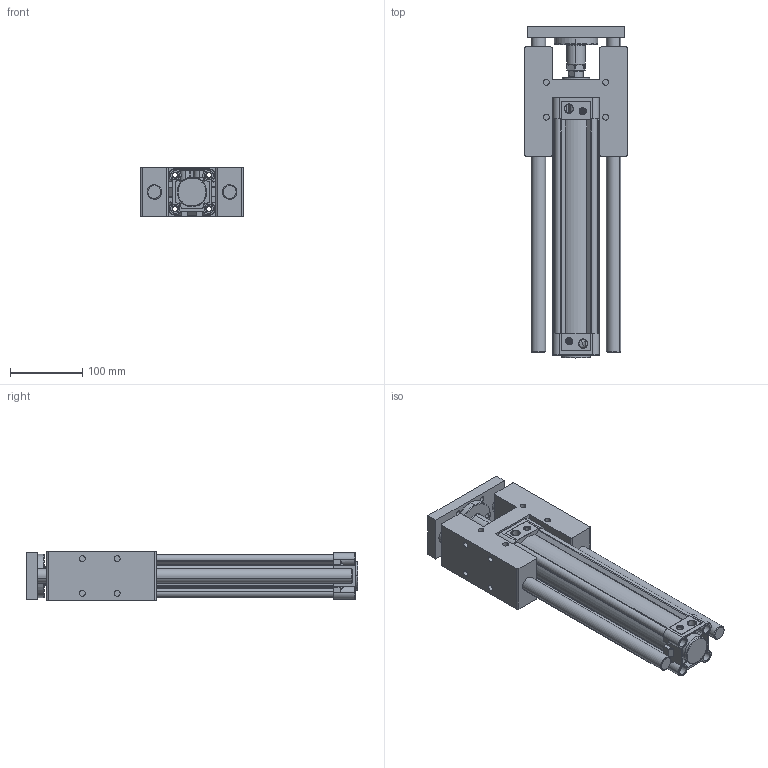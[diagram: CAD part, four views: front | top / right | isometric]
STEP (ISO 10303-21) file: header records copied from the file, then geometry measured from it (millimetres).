
FILE_DESCRIPTION (( 'STEP AP203' ), '1' );
FILE_NAME ('KDNT50X250H-YATAK.STEP', '2016-05-18T10:25:09', ( 'user' ), ( '' ), 'SwSTEP 2.0', 'SolidWorks 2013', '' );
FILE_SCHEMA (( 'CONFIG_CONTROL_DESIGN' ));
Length unit declared in the file: millimetre
Products named in the file (11): DNC-H-YATAK MÝL YATAÐI 50; DNC-H-YATAK 50; ARKA KAPAK 50; DNC-H-YATAK M尳 50X250; KDNT 50X250 BORU; ORTA PÝSTON 50; 烰 KAPAK  50; Piston Mili 50x250; SOMUN 50; KDNT50X250H-YATAK; DNC-H-YATAK TABLA 50
Assembly tree (11 placements, depth 2):
  KDNT50X250H-YATAK
    DNC-H-YATAK 50
    DNC-H-YATAK M尳 50X250  x2
    DNC-H-YATAK TABLA 50
    DNC-H-YATAK MÝL YATAÐI 50
    ARKA KAPAK 50
    KDNT 50X250 BORU
    ORTA PÝSTON 50
    烰 KAPAK  50
    Piston Mili 50x250
    SOMUN 50
Bounding box: 142 x 458.4 x 68.5 mm (x, y, z)
Volume: 1739273.6 mm3; surface area: 490318 mm2
Topology: 18 solids, 18 shells, 973 faces, 2485 edges, 1637 vertices
Faces by surface type: cylinder 496, plane 351, cone 80, bspline 34, torus 12
Entity records: 39109 total; most frequent: CARTESIAN_POINT 15107, ORIENTED_EDGE 4934, DIRECTION 4438, EDGE_CURVE 2467, AXIS2_PLACEMENT_3D 1696, VERTEX_POINT 1629, EDGE_LOOP 1152, VECTOR 1046
